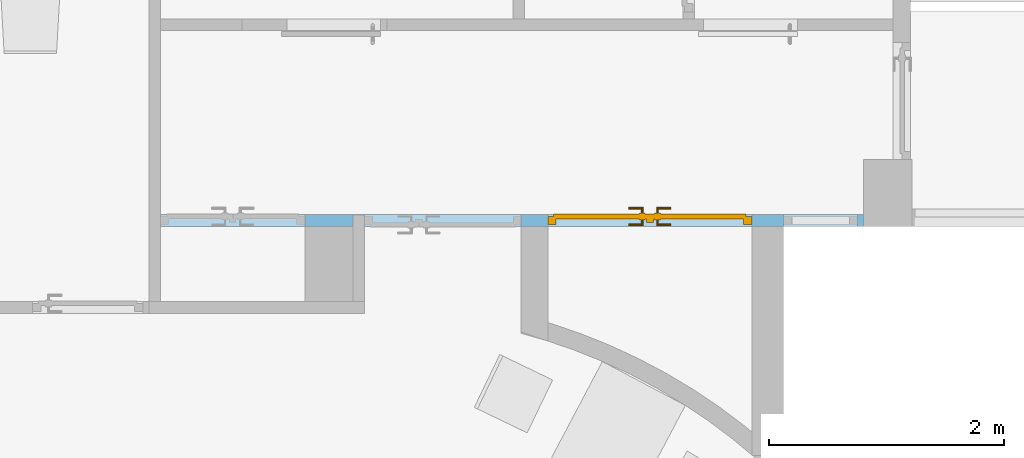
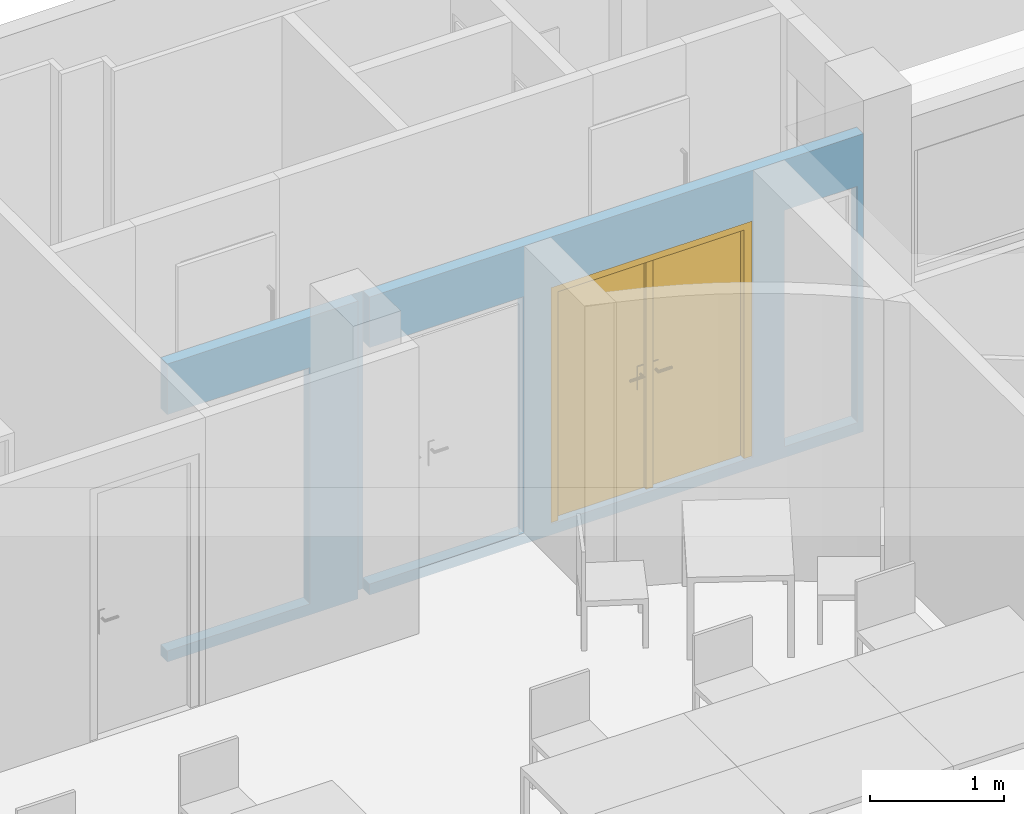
"""IFC4 building model written with IfcOpenShell, lengths in metres."""

from ifc_helpers import new_model, entity, si_unit, converted_unit, derived_unit, frame, origin, origin_with_axes, place, context, subcontext, project, spatial, polyline, outline, extrude, faceted_brep, source, transform, mapped, material, layer, layer_set, layer_usage, element, fill, save


model = new_model("IFC4")

# Units and contexts
model_context = context("Model", 3, precision=1e-05, world=origin())
body_context = subcontext(model_context, "Body", "Model", "MODEL_VIEW")
ifc_project = project(units=[si_unit("LENGTHUNIT", "METRE"), si_unit("AREAUNIT", "SQUARE_METRE"), si_unit("VOLUMEUNIT", "CUBIC_METRE"), si_unit("MASSUNIT", "GRAM", prefix="KILO"), converted_unit("PLANEANGLEUNIT", "DEGREE", entity("IfcPlaneAngleMeasure", 0.0174532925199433), si_unit("PLANEANGLEUNIT", "RADIAN"), dimensions=[0, 0, 0, 0, 0, 0, 0]), derived_unit("THERMALTRANSMITTANCEUNIT", [(si_unit("POWERUNIT", "WATT"), 1), (si_unit("THERMODYNAMICTEMPERATUREUNIT", "KELVIN"), -1), (si_unit("LENGTHUNIT", "METRE"), -2)]), derived_unit("VOLUMETRICFLOWRATEUNIT", [(si_unit("LENGTHUNIT", "METRE"), 3), (converted_unit("TIMEUNIT", "hour", entity("IfcTimeMeasure", 3600.0), si_unit("TIMEUNIT", "SECOND"), dimensions=[0, 0, 1, 0, 0, 0, 0]), -1), (si_unit("LENGTHUNIT", "METRE"), -1)])], contexts=[model_context])

# Building, storeys
building_placement = place(None, origin())
building = spatial("IfcBuilding", under=ifc_project, at=building_placement, Name="HABITATGE PLURIFAMILIAR", CompositionType="ELEMENT")
storey_1_placement = place(building_placement, frame((0.0, 0.0, 6.25)))
storey_1 = spatial("IfcBuildingStorey", under=building, at=storey_1_placement, Name="PLANTA PRIMERA", CompositionType="ELEMENT", Elevation=6.25)
storey_2_placement = place(storey_1_placement, frame((0.0, 0.0, 3.35)))
storey_2 = spatial("IfcBuildingStorey", under=storey_1, at=storey_2_placement, Name="NOU", CompositionType="PARTIAL")

# Wall, openings, door
ifc_material = material()
ifc_layer = layer(ifc_material, 0.1)
ifc_layer_set = layer_set([ifc_layer])
ifc_layer_usage = layer_usage(ifc_layer_set, "AXIS2", "POSITIVE", 0.0)
wall_placement = place(storey_2_placement, frame((410.426984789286, 24.2594598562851, -3.45), z_axis=(0.0, 0.0, 1.0), x_axis=(-1.0, 0.0, 0.0)))
wall = element("IfcWall", 1, at=wall_placement, inside=storey_2, material=ifc_layer_usage, Name="Envans P1", context=body_context, shape_type="SweptSolid", body=[
    extrude(outline(polyline([(-5.99000001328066, -0.1), (0.0, -0.1), (0.0, 0.0), (-1.63999999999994, 0.0), (-1.63999999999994, -0.0977698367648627), (-1.74, -0.0977698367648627), (-1.74, 0.0), (-5.99000001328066, 0.0), (-5.99000001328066, -0.1)])), frame((5.99000001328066, 0.1, 0.0), z_axis=(0.0, 0.0, 1.0), x_axis=(1.0, 0.0, 0.0)), (0.0, 0.0, 1.0), 2.71),
])
opening_1_placement = place(wall_placement, frame((4.25000001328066, 0.1, 0.1), z_axis=(0.0, 0.0, 1.0), x_axis=(-1.0, 0.0, 0.0)))
element("IfcOpeningElement", 2, at=opening_1_placement, cuts=wall, Name="Vano de puerta P1", ObjectType="Opening", context=body_context, shape_type="SweptSolid", body=[
    extrude(outline(polyline([(0.0, 0.0), (1.33, 0.0), (1.33311274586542, 0.1), (0.0, 0.1), (0.0, 0.0)])), origin_with_axes(), (0.0, 0.0, 1.0), 2.15),
])
opening_2_placement = place(wall_placement, frame((5.99036691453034, 0.1, 0.1), z_axis=(0.0, -1.0, 0.0), x_axis=(0.0, 0.0, 1.0)))
element("IfcOpeningElement", 3, at=opening_2_placement, cuts=wall, Name="Vano de puerta P1", ObjectType="Opening", context=body_context, shape_type="SweptSolid", body=[
    extrude(outline(polyline([(2.15, 1.23), (2.15, 0.0), (0.0, 0.0), (0.0, 1.23), (2.15, 1.23)])), origin_with_axes(), (0.0, 0.0, 1.0), 0.1),
])
opening_3_placement = place(wall_placement, frame((0.679999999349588, 0.1, 0.1), z_axis=(0.0, -1.0, 0.0), x_axis=(0.0, 0.0, 1.0)))
element("IfcOpeningElement", 4, at=opening_3_placement, cuts=wall, Name="Vano de puerta P1", ObjectType="Opening", context=body_context, shape_type="SweptSolid", body=[
    extrude(outline(polyline([(2.15, 0.629999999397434), (2.15, 0.0), (0.0, 0.0), (0.0, 0.629999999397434), (2.15, 0.629999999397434)])), origin_with_axes(), (0.0, 0.0, 1.0), 0.1),
])
opening_4_placement = place(wall_placement, frame((2.69000001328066, 0.1, 0.1), z_axis=(0.0, -1.0, 0.0), x_axis=(0.0, 0.0, 1.0)))
opening_4 = element("IfcOpeningElement", 5, at=opening_4_placement, cuts=wall, Name="Vano de puerta P1", ObjectType="Opening", context=body_context, shape_type="SweptSolid", body=[
    extrude(outline(polyline([(2.15, 1.73999999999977), (2.15, 0.0), (0.0, 0.0), (0.0, 1.73999999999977), (2.15, 1.73999999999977)])), origin_with_axes(), (0.0, 0.0, 1.0), 0.1),
])
shared_shape = source(origin_with_axes(), body_context, "Body", "Brep", [
    faceted_brep([(0.0, 0.07, 2.15), (0.0, 0.07, 0.0), (0.07, 0.07, 0.0), (0.07, 0.07, 2.15), (0.0, 0.0, 0.0), (0.0, 0.0, 2.15), (0.07, 0.0, 2.15), (0.07, 0.0, 0.0)], [[[0, 1, 2, 3]], [[4, 5, 6, 7]], [[1, 0, 5, 4]], [[2, 1, 4, 7]], [[3, 2, 7, 6]], [[0, 3, 6, 5]]], orient=[[False], [False], [False], [False], [False], [False]]),
    faceted_brep([(1.66999999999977, 0.07, 2.15), (1.66999999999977, 0.07, 0.0), (1.73999999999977, 0.07, 0.0), (1.73999999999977, 0.07, 2.15), (1.66999999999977, 0.0, 0.0), (1.66999999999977, 0.0, 2.15), (1.73999999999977, 0.0, 2.15), (1.73999999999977, 0.0, 0.0)], [[[0, 1, 2, 3]], [[4, 5, 6, 7]], [[1, 0, 5, 4]], [[2, 1, 4, 7]], [[3, 2, 7, 6]], [[0, 3, 6, 5]]], orient=[[False], [False], [False], [False], [False], [False]]),
    faceted_brep([(0.07, 0.07, 2.15), (0.07, 0.07, 2.08), (1.66999999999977, 0.07, 2.08), (1.66999999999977, 0.07, 2.15), (0.07, 0.0, 2.08), (0.07, 0.0, 2.15), (1.66999999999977, 0.0, 2.15), (1.66999999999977, 0.0, 2.08)], [[[0, 1, 2, 3]], [[4, 5, 6, 7]], [[1, 0, 5, 4]], [[2, 1, 4, 7]], [[3, 2, 7, 6]], [[0, 3, 6, 5]]], orient=[[False], [False], [False], [False], [False], [False]]),
    faceted_brep([(0.05, 0.09, 2.1), (0.05, 0.09, 0.0), (0.869499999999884, 0.09, 0.0), (0.869499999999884, 0.09, 2.1), (0.05, 0.05, 0.0), (0.05, 0.05, 2.1), (0.869499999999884, 0.05, 2.1), (0.869499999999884, 0.05, 0.0)], [[[0, 1, 2, 3]], [[4, 5, 6, 7]], [[1, 0, 5, 4]], [[2, 1, 4, 7]], [[3, 2, 7, 6]], [[0, 3, 6, 5]]], orient=[[False], [False], [False], [False], [False], [False]]),
    faceted_brep([(0.839499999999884, 0.05, 2.08), (0.839499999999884, 0.05, 0.0), (0.899499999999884, 0.05, 0.0), (0.899499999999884, 0.05, 2.08), (0.839499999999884, 0.02, 0.0), (0.839499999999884, 0.02, 2.08), (0.899499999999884, 0.02, 2.08), (0.899499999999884, 0.02, 0.0)], [[[0, 1, 2, 3]], [[4, 5, 6, 7]], [[1, 0, 5, 4]], [[2, 1, 4, 7]], [[3, 2, 7, 6]], [[0, 3, 6, 5]]], orient=[[False], [False], [False], [False], [False], [False]]),
    faceted_brep([(0.779499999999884, 0.05, 1.125), (0.779499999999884, 0.05, 0.91), (0.829499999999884, 0.05, 0.91), (0.829499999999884, 0.05, 1.125), (0.779499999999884, 0.04, 0.91), (0.779499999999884, 0.04, 1.125), (0.829499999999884, 0.04, 1.125), (0.829499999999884, 0.04, 0.91)], [[[0, 1, 2, 3]], [[4, 5, 6, 7]], [[1, 0, 5, 4]], [[2, 1, 4, 7]], [[3, 2, 7, 6]], [[0, 3, 6, 5]]], orient=[[False], [False], [False], [False], [False], [False]]),
    faceted_brep([(0.804499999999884, 0.04, 1.06), (0.799499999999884, 0.04, 1.05866025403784), (0.795839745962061, 0.04, 1.055), (0.794499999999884, 0.04, 1.05), (0.795839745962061, 0.04, 1.045), (0.799499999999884, 0.04, 1.04133974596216), (0.804499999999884, 0.04, 1.04), (0.809499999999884, 0.04, 1.04133974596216), (0.813160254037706, 0.04, 1.045), (0.814499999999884, 0.04, 1.05), (0.813160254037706, 0.04, 1.055), (0.809499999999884, 0.04, 1.05866025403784), (0.809499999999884, -0.005, 1.05866025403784), (0.804499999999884, 0.0, 1.06), (0.813160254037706, -0.00866025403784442, 1.055), (0.814499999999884, -0.01, 1.05), (0.813160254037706, -0.00866025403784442, 1.045), (0.809499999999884, -0.005, 1.04133974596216), (0.804499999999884, 0.0, 1.04), (0.799499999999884, 0.005, 1.04133974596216), (0.795839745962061, 0.00866025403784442, 1.045), (0.794499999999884, 0.01, 1.05), (0.795839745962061, 0.00866025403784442, 1.055), (0.799499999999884, 0.005, 1.05866025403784), (0.689499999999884, 0.0, 1.06), (0.689499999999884, -0.005, 1.05866025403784), (0.689499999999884, -0.00866025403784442, 1.055), (0.689499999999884, -0.01, 1.05), (0.689499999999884, -0.00866025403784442, 1.045), (0.689499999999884, -0.005, 1.04133974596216), (0.689499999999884, 0.0, 1.04), (0.689499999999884, 0.005, 1.04133974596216), (0.689499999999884, 0.00866025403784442, 1.045), (0.689499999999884, 0.01, 1.05), (0.689499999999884, 0.00866025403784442, 1.055), (0.689499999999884, 0.005, 1.05866025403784)], [[[0, 1, 2, 3, 4, 5, 6, 7, 8, 9, 10, 11]], [[0, 11, 12, 13]], [[11, 10, 14, 12]], [[10, 9, 15, 14]], [[9, 8, 16, 15]], [[8, 7, 17, 16]], [[7, 6, 18, 17]], [[6, 5, 19, 18]], [[5, 4, 20, 19]], [[4, 3, 21, 20]], [[3, 2, 22, 21]], [[2, 1, 23, 22]], [[1, 0, 13, 23]], [[24, 25, 26, 27, 28, 29, 30, 31, 32, 33, 34, 35]], [[13, 12, 25, 24]], [[12, 14, 26, 25]], [[14, 15, 27, 26]], [[15, 16, 28, 27]], [[16, 17, 29, 28]], [[17, 18, 30, 29]], [[18, 19, 31, 30]], [[19, 20, 32, 31]], [[20, 21, 33, 32]], [[21, 22, 34, 33]], [[22, 23, 35, 34]], [[23, 13, 24, 35]]], orient=[[False], [False], [False], [False], [False], [False], [False], [False], [False], [False], [False], [False], [False], [False], [False], [False], [False], [False], [False], [False], [False], [False], [False], [False], [False], [False]]),
    faceted_brep([(0.779499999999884, 0.09, 1.125), (0.829499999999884, 0.09, 1.125), (0.829499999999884, 0.09, 0.91), (0.779499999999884, 0.09, 0.91), (0.779499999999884, 0.1, 0.91), (0.829499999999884, 0.1, 0.91), (0.829499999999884, 0.1, 1.125), (0.779499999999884, 0.1, 1.125)], [[[0, 1, 2, 3]], [[4, 5, 6, 7]], [[3, 4, 7, 0]], [[2, 5, 4, 3]], [[1, 6, 5, 2]], [[0, 7, 6, 1]]], orient=[[False], [False], [False], [False], [False], [False]]),
    faceted_brep([(0.804499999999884, 0.1, 1.06), (0.809499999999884, 0.1, 1.05866025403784), (0.813160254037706, 0.1, 1.055), (0.814499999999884, 0.1, 1.05), (0.813160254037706, 0.1, 1.045), (0.809499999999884, 0.1, 1.04133974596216), (0.804499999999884, 0.1, 1.04), (0.799499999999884, 0.1, 1.04133974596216), (0.795839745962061, 0.1, 1.045), (0.794499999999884, 0.1, 1.05), (0.795839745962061, 0.1, 1.055), (0.799499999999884, 0.1, 1.05866025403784), (0.804499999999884, 0.14, 1.06), (0.809499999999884, 0.145, 1.05866025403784), (0.813160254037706, 0.148660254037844, 1.055), (0.814499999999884, 0.15, 1.05), (0.813160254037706, 0.148660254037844, 1.045), (0.809499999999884, 0.145, 1.04133974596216), (0.804499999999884, 0.14, 1.04), (0.799499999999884, 0.135, 1.04133974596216), (0.795839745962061, 0.131339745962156, 1.045), (0.794499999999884, 0.13, 1.05), (0.795839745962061, 0.131339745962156, 1.055), (0.799499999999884, 0.135, 1.05866025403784), (0.689499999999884, 0.14, 1.06), (0.689499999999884, 0.135, 1.05866025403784), (0.689499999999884, 0.131339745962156, 1.055), (0.689499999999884, 0.13, 1.05), (0.689499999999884, 0.131339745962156, 1.045), (0.689499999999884, 0.135, 1.04133974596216), (0.689499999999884, 0.14, 1.04), (0.689499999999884, 0.145, 1.04133974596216), (0.689499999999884, 0.148660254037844, 1.045), (0.689499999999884, 0.15, 1.05), (0.689499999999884, 0.148660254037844, 1.055), (0.689499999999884, 0.145, 1.05866025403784)], [[[0, 1, 2, 3, 4, 5, 6, 7, 8, 9, 10, 11]], [[0, 12, 13, 1]], [[1, 13, 14, 2]], [[2, 14, 15, 3]], [[3, 15, 16, 4]], [[4, 16, 17, 5]], [[5, 17, 18, 6]], [[6, 18, 19, 7]], [[7, 19, 20, 8]], [[8, 20, 21, 9]], [[9, 21, 22, 10]], [[10, 22, 23, 11]], [[11, 23, 12, 0]], [[24, 25, 26, 27, 28, 29, 30, 31, 32, 33, 34, 35]], [[12, 24, 35, 13]], [[13, 35, 34, 14]], [[14, 34, 33, 15]], [[15, 33, 32, 16]], [[16, 32, 31, 17]], [[17, 31, 30, 18]], [[18, 30, 29, 19]], [[19, 29, 28, 20]], [[20, 28, 27, 21]], [[21, 27, 26, 22]], [[22, 26, 25, 23]], [[23, 25, 24, 12]]], orient=[[False], [False], [False], [False], [False], [False], [False], [False], [False], [False], [False], [False], [False], [False], [False], [False], [False], [False], [False], [False], [False], [False], [False], [False], [False], [False]]),
    faceted_brep([(0.870499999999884, 0.09, 2.1), (0.870499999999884, 0.09, 0.0), (1.68999999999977, 0.09, 0.0), (1.68999999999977, 0.09, 2.1), (0.870499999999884, 0.05, 0.0), (0.870499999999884, 0.05, 2.1), (1.68999999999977, 0.05, 2.1), (1.68999999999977, 0.05, 0.0)], [[[0, 1, 2, 3]], [[4, 5, 6, 7]], [[1, 0, 5, 4]], [[2, 1, 4, 7]], [[3, 2, 7, 6]], [[0, 3, 6, 5]]], orient=[[False], [False], [False], [False], [False], [False]]),
    faceted_brep([(0.910499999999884, 0.05, 1.125), (0.910499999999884, 0.05, 0.91), (0.960499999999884, 0.05, 0.91), (0.960499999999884, 0.05, 1.125), (0.910499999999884, 0.04, 0.91), (0.910499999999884, 0.04, 1.125), (0.960499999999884, 0.04, 1.125), (0.960499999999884, 0.04, 0.91)], [[[0, 1, 2, 3]], [[4, 5, 6, 7]], [[1, 0, 5, 4]], [[2, 1, 4, 7]], [[3, 2, 7, 6]], [[0, 3, 6, 5]]], orient=[[False], [False], [False], [False], [False], [False]]),
    faceted_brep([(0.935499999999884, 0.04, 1.06), (0.930499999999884, 0.04, 1.05866025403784), (0.926839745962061, 0.04, 1.055), (0.925499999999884, 0.04, 1.05), (0.926839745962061, 0.04, 1.045), (0.930499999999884, 0.04, 1.04133974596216), (0.935499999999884, 0.04, 1.04), (0.940499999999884, 0.04, 1.04133974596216), (0.944160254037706, 0.04, 1.045), (0.945499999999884, 0.04, 1.05), (0.944160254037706, 0.04, 1.055), (0.940499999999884, 0.04, 1.05866025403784), (0.935499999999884, 0.0, 1.06), (0.930499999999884, -0.005, 1.05866025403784), (0.926839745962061, -0.00866025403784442, 1.055), (0.925499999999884, -0.01, 1.05), (0.926839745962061, -0.00866025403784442, 1.045), (0.930499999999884, -0.005, 1.04133974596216), (0.935499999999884, 0.0, 1.04), (0.940499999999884, 0.005, 1.04133974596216), (0.944160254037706, 0.00866025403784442, 1.045), (0.945499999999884, 0.01, 1.05), (0.944160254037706, 0.00866025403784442, 1.055), (0.940499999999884, 0.005, 1.05866025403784), (1.05049999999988, 0.0, 1.06), (1.05049999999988, 0.005, 1.05866025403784), (1.05049999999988, 0.00866025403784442, 1.055), (1.05049999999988, 0.01, 1.05), (1.05049999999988, 0.00866025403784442, 1.045), (1.05049999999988, 0.005, 1.04133974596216), (1.05049999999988, 0.0, 1.04), (1.05049999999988, -0.005, 1.04133974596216), (1.05049999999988, -0.00866025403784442, 1.045), (1.05049999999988, -0.01, 1.05), (1.05049999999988, -0.00866025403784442, 1.055), (1.05049999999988, -0.005, 1.05866025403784)], [[[0, 1, 2, 3, 4, 5, 6, 7, 8, 9, 10, 11]], [[0, 12, 13, 1]], [[1, 13, 14, 2]], [[2, 14, 15, 3]], [[3, 15, 16, 4]], [[4, 16, 17, 5]], [[5, 17, 18, 6]], [[6, 18, 19, 7]], [[7, 19, 20, 8]], [[8, 20, 21, 9]], [[9, 21, 22, 10]], [[10, 22, 23, 11]], [[11, 23, 12, 0]], [[24, 25, 26, 27, 28, 29, 30, 31, 32, 33, 34, 35]], [[12, 24, 35, 13]], [[13, 35, 34, 14]], [[14, 34, 33, 15]], [[15, 33, 32, 16]], [[16, 32, 31, 17]], [[17, 31, 30, 18]], [[18, 30, 29, 19]], [[19, 29, 28, 20]], [[20, 28, 27, 21]], [[21, 27, 26, 22]], [[22, 26, 25, 23]], [[23, 25, 24, 12]]], orient=[[False], [False], [False], [False], [False], [False], [False], [False], [False], [False], [False], [False], [False], [False], [False], [False], [False], [False], [False], [False], [False], [False], [False], [False], [False], [False]]),
    faceted_brep([(0.910499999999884, 0.09, 1.125), (0.960499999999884, 0.09, 1.125), (0.960499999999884, 0.09, 0.91), (0.910499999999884, 0.09, 0.91), (0.910499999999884, 0.1, 0.91), (0.960499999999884, 0.1, 0.91), (0.960499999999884, 0.1, 1.125), (0.910499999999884, 0.1, 1.125)], [[[0, 1, 2, 3]], [[4, 5, 6, 7]], [[3, 4, 7, 0]], [[2, 5, 4, 3]], [[1, 6, 5, 2]], [[0, 7, 6, 1]]], orient=[[False], [False], [False], [False], [False], [False]]),
    faceted_brep([(0.935499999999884, 0.1, 1.06), (0.940499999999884, 0.1, 1.05866025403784), (0.944160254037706, 0.1, 1.055), (0.945499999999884, 0.1, 1.05), (0.944160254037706, 0.1, 1.045), (0.940499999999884, 0.1, 1.04133974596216), (0.935499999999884, 0.1, 1.04), (0.930499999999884, 0.1, 1.04133974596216), (0.926839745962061, 0.1, 1.045), (0.925499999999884, 0.1, 1.05), (0.926839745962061, 0.1, 1.055), (0.930499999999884, 0.1, 1.05866025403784), (0.930499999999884, 0.145, 1.05866025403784), (0.935499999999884, 0.14, 1.06), (0.926839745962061, 0.148660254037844, 1.055), (0.925499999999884, 0.15, 1.05), (0.926839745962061, 0.148660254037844, 1.045), (0.930499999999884, 0.145, 1.04133974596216), (0.935499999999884, 0.14, 1.04), (0.940499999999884, 0.135, 1.04133974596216), (0.944160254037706, 0.131339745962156, 1.045), (0.945499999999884, 0.13, 1.05), (0.944160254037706, 0.131339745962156, 1.055), (0.940499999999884, 0.135, 1.05866025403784), (1.05049999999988, 0.14, 1.06), (1.05049999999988, 0.145, 1.05866025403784), (1.05049999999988, 0.148660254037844, 1.055), (1.05049999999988, 0.15, 1.05), (1.05049999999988, 0.148660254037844, 1.045), (1.05049999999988, 0.145, 1.04133974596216), (1.05049999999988, 0.14, 1.04), (1.05049999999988, 0.135, 1.04133974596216), (1.05049999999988, 0.131339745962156, 1.045), (1.05049999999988, 0.13, 1.05), (1.05049999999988, 0.131339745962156, 1.055), (1.05049999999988, 0.135, 1.05866025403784)], [[[0, 1, 2, 3, 4, 5, 6, 7, 8, 9, 10, 11]], [[0, 11, 12, 13]], [[11, 10, 14, 12]], [[10, 9, 15, 14]], [[9, 8, 16, 15]], [[8, 7, 17, 16]], [[7, 6, 18, 17]], [[6, 5, 19, 18]], [[5, 4, 20, 19]], [[4, 3, 21, 20]], [[3, 2, 22, 21]], [[2, 1, 23, 22]], [[1, 0, 13, 23]], [[24, 25, 26, 27, 28, 29, 30, 31, 32, 33, 34, 35]], [[13, 12, 25, 24]], [[12, 14, 26, 25]], [[14, 15, 27, 26]], [[15, 16, 28, 27]], [[16, 17, 29, 28]], [[17, 18, 30, 29]], [[18, 19, 31, 30]], [[19, 20, 32, 31]], [[20, 21, 33, 32]], [[21, 22, 34, 33]], [[22, 23, 35, 34]], [[23, 13, 24, 35]]], orient=[[False], [False], [False], [False], [False], [False], [False], [False], [False], [False], [False], [False], [False], [False], [False], [False], [False], [False], [False], [False], [False], [False], [False], [False], [False], [False]]),
])
door_placement = place(opening_4_placement, frame((0.0, 0.0, 0.015), z_axis=(1.0, 0.0, 0.0), x_axis=(0.0, 1.0, 0.0)))
door = element("IfcDoor", 6, at=door_placement, inside=storey_2, Name="Porta P1", OperationType="USERDEFINED", OverallHeight=2.15, OverallWidth=1.74, PredefinedType="DOOR", context=body_context, shape_type="MappedRepresentation", body=[
    mapped(shared_shape, transform((0.0, 0.0, 0.0), x_axis=(1.0, 0.0, 0.0), y_axis=(0.0, 1.0, 0.0), z_axis=(0.0, 0.0, 1.0), scale=1.0)),
])
fill(opening_4, door)

save(model, "model.ifc")
